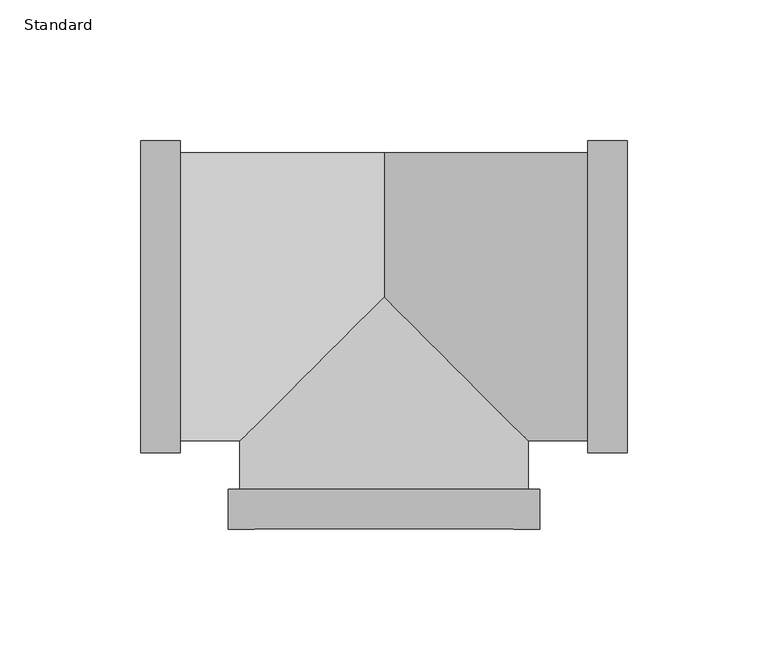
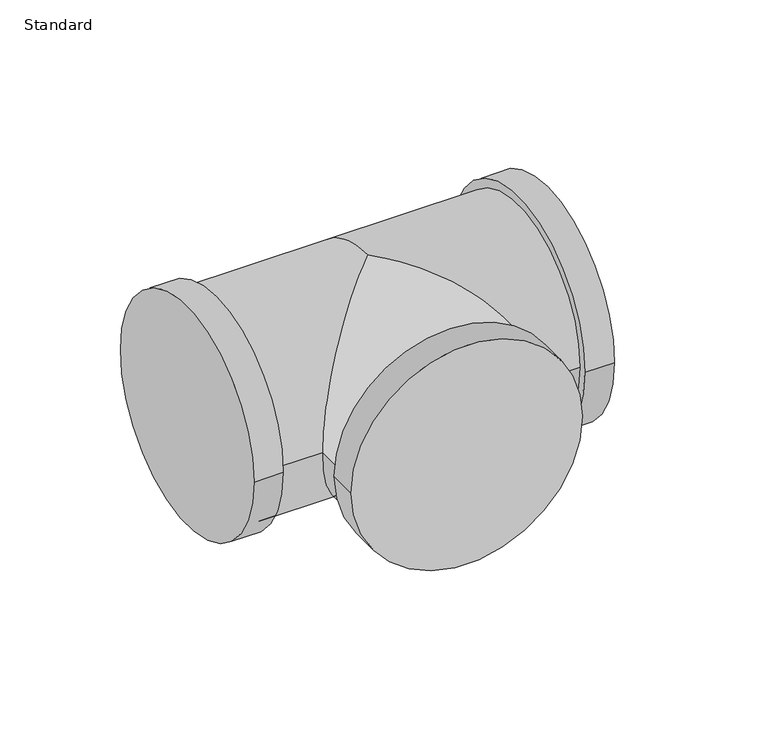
"""IFC4 building model written with IfcOpenShell, lengths in millimetres: pipe fitting geometry, Tee Branch Increased - Threaded - GMI : Standard."""

from ifc_helpers import new_model, si_unit, frame, origin, place, context, project, spatial, circle_curve, ellipse_curve, source, transform, mapped, element, save
from ifc_brep_helpers import plane_surface, cylinder_surface, advanced_brep


def standard_482ef1a1(model_context):
    return source(origin(), model_context, "Body", "AdvancedBrep", [
        advanced_brep(
        [(-72.3351562, 51.1625, 0.0), (0.0, 51.1625, 0.0), (0.0, 0.0, -51.1625), (-51.1625, -51.1625, 0.0), (-72.3351562, -51.1625, 0.0), (0.0, 0.0, 51.1625), (72.3351563, 51.1625, 0.0), (51.1625, -51.1625, 0.0), (72.3351563, -51.1625, 0.0), (-86.4, -55.4011719, 0.0), (-86.4, 55.4011719, 0.0), (-72.3351562, -55.4011719, 0.0), (-72.3351562, 55.4011719, 0.0), (72.3351563, -55.4011719, 0.0), (72.3351563, 55.4011719, 0.0), (86.4, -55.4011719, 0.0), (86.4, 55.4011719, 0.0), (-51.1625, -68.4351563, 0.0), (51.1625, -68.4351563, 0.0), (-55.4011719, -68.4351563, 0.0), (55.4011719, -68.4351563, 0.0), (-55.4011719, -82.5, 0.0), (55.4011719, -82.5, 0.0)],
        [
            (0, 1),
            (1, 2, circle_curve(frame((0.0, 0.0, 0.0), z_axis=(-1.0, 0.0, 0.0), x_axis=(0.0, 0.0, -1.0)), 51.1625)),
            (2, 3, ellipse_curve(frame((0.0, 0.0, 0.0), z_axis=(-0.707106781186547, 0.707106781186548, 0.0), x_axis=(0.707106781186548, 0.707106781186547, 0.0)), 72.3547014, 51.1625)),
            (3, 4),
            (4, 0, circle_curve(frame((-72.3351562, 0.0, 0.0), z_axis=(1.0, 0.0, 0.0), x_axis=(0.0, 0.0, -1.0)), 51.1625)),
            (0, 4, circle_curve(frame((-72.3351562, 0.0, 0.0), z_axis=(1.0, 0.0, 0.0), x_axis=(0.0, 0.0, 1.0)), 51.1625)),
            (3, 5, ellipse_curve(frame((0.0, 0.0, 0.0), z_axis=(-0.707106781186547, 0.707106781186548, 0.0), x_axis=(0.707106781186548, 0.707106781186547, 0.0)), 72.3547014, 51.1625)),
            (5, 1, circle_curve(frame((0.0, 0.0, 0.0), z_axis=(-1.0, 0.0, 0.0), x_axis=(0.0, 0.0, 1.0)), 51.1625)),
            (6, 1),
            (5, 7, ellipse_curve(frame((0.0, 0.0, 0.0), z_axis=(0.707106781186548, 0.7071067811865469, 0.0), x_axis=(-0.707106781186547, 0.707106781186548, 0.0)), 72.3547014, 51.1625)),
            (7, 8),
            (8, 6, circle_curve(frame((72.3351563, 0.0, 0.0), z_axis=(-1.0, 0.0, 0.0), x_axis=(0.0, 1.0, 0.0)), 51.1625)),
            (6, 8, circle_curve(frame((72.3351563, 0.0, 0.0), z_axis=(-1.0, 0.0, 0.0), x_axis=(0.0, 1.0, 0.0)), 51.1625)),
            (7, 2, ellipse_curve(frame((0.0, 0.0, 0.0), z_axis=(0.707106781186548, 0.7071067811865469, 0.0), x_axis=(-0.707106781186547, 0.707106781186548, 0.0)), 72.3547014, 51.1625)),
            (9, 10, circle_curve(frame((-86.4, 0.0, 0.0), z_axis=(-1.0, 0.0, 0.0), x_axis=(0.0, 1.0, 0.0)), 55.4011719)),
            (10, 9, circle_curve(frame((-86.4, 0.0, 0.0), z_axis=(-1.0, 0.0, 0.0), x_axis=(0.0, 1.0, 0.0)), 55.4011719)),
            (11, 12, circle_curve(frame((-72.3351562, 0.0, 0.0), z_axis=(1.0, 0.0, 0.0), x_axis=(0.0, 1.0, 0.0)), 55.4011719)),
            (12, 11, circle_curve(frame((-72.3351562, 0.0, 0.0), z_axis=(1.0, 0.0, 0.0), x_axis=(0.0, 1.0, 0.0)), 55.4011719)),
            (9, 11),
            (12, 10),
            (13, 14, circle_curve(frame((72.3351563, 0.0, 0.0), z_axis=(-1.0, 0.0, 0.0), x_axis=(0.0, 1.0, 0.0)), 55.4011719)),
            (14, 13, circle_curve(frame((72.3351563, 0.0, 0.0), z_axis=(-1.0, 0.0, 0.0), x_axis=(0.0, 1.0, 0.0)), 55.4011719)),
            (15, 16, circle_curve(frame((86.4, 0.0, 0.0), z_axis=(1.0, 0.0, 0.0), x_axis=(0.0, 1.0, 0.0)), 55.4011719)),
            (16, 15, circle_curve(frame((86.4, 0.0, 0.0), z_axis=(1.0, 0.0, 0.0), x_axis=(0.0, 1.0, 0.0)), 55.4011719)),
            (13, 15),
            (16, 14),
            (17, 3),
            (7, 18),
            (18, 17, circle_curve(frame((0.0, -68.4351563, 0.0), z_axis=(0.0, 1.0, 0.0), x_axis=(0.0, 0.0, -1.0)), 51.1625)),
            (17, 18, circle_curve(frame((0.0, -68.4351563, 0.0), z_axis=(0.0, 1.0, 0.0), x_axis=(0.0, 0.0, 1.0)), 51.1625)),
            (19, 20, circle_curve(frame((0.0, -68.4351563, 0.0), z_axis=(0.0, 1.0, 0.0), x_axis=(1.0, 0.0, 0.0)), 55.4011719)),
            (20, 19, circle_curve(frame((0.0, -68.4351563, 0.0), z_axis=(0.0, 1.0, 0.0), x_axis=(1.0, 0.0, 0.0)), 55.4011719)),
            (21, 22, circle_curve(frame((0.0, -82.5, 0.0), z_axis=(0.0, -1.0, 0.0), x_axis=(1.0, 0.0, 0.0)), 55.4011719)),
            (22, 21, circle_curve(frame((0.0, -82.5, 0.0), z_axis=(0.0, -1.0, 0.0), x_axis=(1.0, 0.0, 0.0)), 55.4011719)),
            (19, 21),
            (22, 20),
        ],
        [
            cylinder_surface(frame((-72.3351562, 0.0, 0.0), z_axis=(1.0, 0.0, 0.0), x_axis=(0.0, 0.0, -1.0)), 51.1625),
            cylinder_surface(frame((-72.3351562, 0.0, 0.0), z_axis=(1.0, 0.0, 0.0), x_axis=(0.0, 0.0, 1.0)), 51.1625),
            cylinder_surface(frame((0.0, 0.0, 0.0), z_axis=(-1.0, 0.0, 0.0), x_axis=(0.0, 1.0, 0.0)), 51.1625),
            plane_surface(frame((-86.4, 0.0, 0.0), z_axis=(-1.0, 0.0, 0.0), x_axis=(0.0, 0.0, 1.0))),
            plane_surface(frame((-72.3351562, 0.0, 0.0), z_axis=(1.0, 0.0, 0.0), x_axis=(0.0, 0.0, 1.0))),
            cylinder_surface(frame((-86.4, 0.0, 0.0), z_axis=(-1.0, 0.0, 0.0), x_axis=(0.0, 1.0, 0.0)), 55.4011719),
            plane_surface(frame((72.3351563, 0.0, 0.0), z_axis=(-1.0, 0.0, 0.0), x_axis=(0.0, 0.0, 1.0))),
            plane_surface(frame((86.4, 0.0, 0.0), z_axis=(1.0, 0.0, 0.0), x_axis=(0.0, 0.0, 1.0))),
            cylinder_surface(frame((72.3351563, 0.0, 0.0), z_axis=(-1.0, 0.0, 0.0), x_axis=(0.0, 1.0, 0.0)), 55.4011719),
            cylinder_surface(frame((0.0, 0.0, 0.0), z_axis=(0.0, -1.0, 0.0), x_axis=(0.0, 0.0, -1.0)), 51.1625),
            cylinder_surface(frame((0.0, 0.0, 0.0), z_axis=(0.0, -1.0, 0.0), x_axis=(0.0, 0.0, 1.0)), 51.1625),
            plane_surface(frame((0.0, -68.4351563, 0.0), z_axis=(0.0, 1.0, 0.0), x_axis=(0.0, 0.0, 1.0))),
            plane_surface(frame((0.0, -82.5, 0.0), z_axis=(0.0, -1.0, 0.0), x_axis=(0.0, 0.0, 1.0))),
            cylinder_surface(frame((0.0, -68.4351563, 0.0), z_axis=(0.0, 1.0, 0.0), x_axis=(1.0, 0.0, 0.0)), 55.4011719),
        ],
        [
            (0, [[1, 2, 3, 4, 5]]),
            (1, [[-1, 6, -4, 7, 8]]),
            (2, [[9, -8, 10, 11, 12]]),
            (2, [[-9, 13, -11, 14, -2]]),
            (3, [[15, 16]]),
            (4, [[17, 18], [-5, -6]]),
            (5, [[-15, 19, -18, 20]]),
            (5, [[-16, -20, -17, -19]]),
            (6, [[21, 22], [-12, -13]]),
            (7, [[23, 24]]),
            (8, [[-21, 25, -24, 26]]),
            (8, [[-22, -26, -23, -25]]),
            (9, [[27, -3, -14, 28, 29]]),
            (10, [[-27, 30, -28, -10, -7]]),
            (11, [[31, 32], [-29, -30]]),
            (12, [[33, 34]]),
            (13, [[-31, 35, -34, 36]]),
            (13, [[-32, -36, -33, -35]]),
        ],
    ),
    ])


if __name__ == "__main__":
    model = new_model("IFC4")
    model_context = context("Model", 3, world=origin())
    ifc_project = project(units=[si_unit("LENGTHUNIT", "METRE", prefix="MILLI")], contexts=[model_context])
    site = spatial("IfcSite", under=ifc_project)
    building = spatial("IfcBuilding", under=site)
    placement = place(None, origin())
    standard_shape = standard_482ef1a1(model_context)
    element("IfcPipeFitting", 1, ObjectType="Tee Branch Increased - Threaded - GMI : Standard", at=placement, inside=building, context=model_context, shape_type="MappedRepresentation", body=[
        mapped(standard_shape, transform((0.0, 0.0, 0.0), x_axis=(1.0, 0.0, 0.0), y_axis=(0.0, 1.0, 0.0), z_axis=(0.0, 0.0, 1.0))),
    ])
    save(model, "model.ifc")
